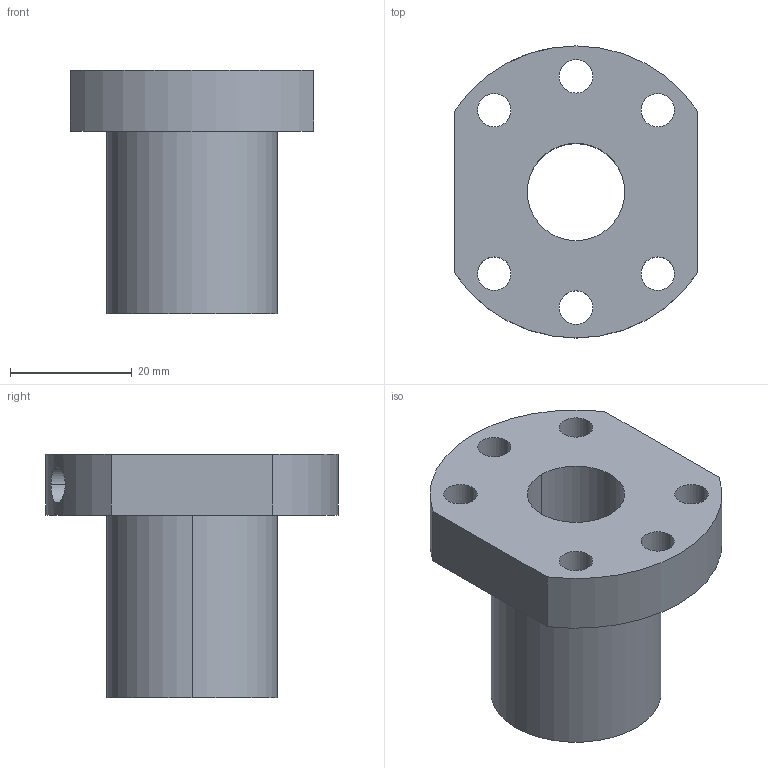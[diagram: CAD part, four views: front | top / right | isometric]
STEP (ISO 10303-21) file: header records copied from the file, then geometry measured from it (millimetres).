
FILE_DESCRIPTION((''),'2;1');
FILE_NAME('A10VECA1','2018-09-04T19:30:50',('bryant.lin'),(''),'CREO PARAMETRIC BY PTC INC, 2018050','CREO PARAMETRIC BY PTC INC, 2018050','');
FILE_SCHEMA(('CONFIG_CONTROL_DESIGN'));
Length unit declared in the file: millimetre
Products named in the file (1): A10VECA1
Bounding box: 40 x 48 x 40 mm (x, y, z)
Volume: 25434.8 mm3; surface area: 9955.4 mm2
Topology: 1 solids, 1 shells, 26 faces, 66 edges, 44 vertices
Faces by surface type: cylinder 20, plane 6
Entity records: 964 total; most frequent: CARTESIAN_POINT 230, DIRECTION 154, ORIENTED_EDGE 132, EDGE_CURVE 66, AXIS2_PLACEMENT_3D 64, VERTEX_POINT 44, EDGE_LOOP 42, CIRCLE 38
